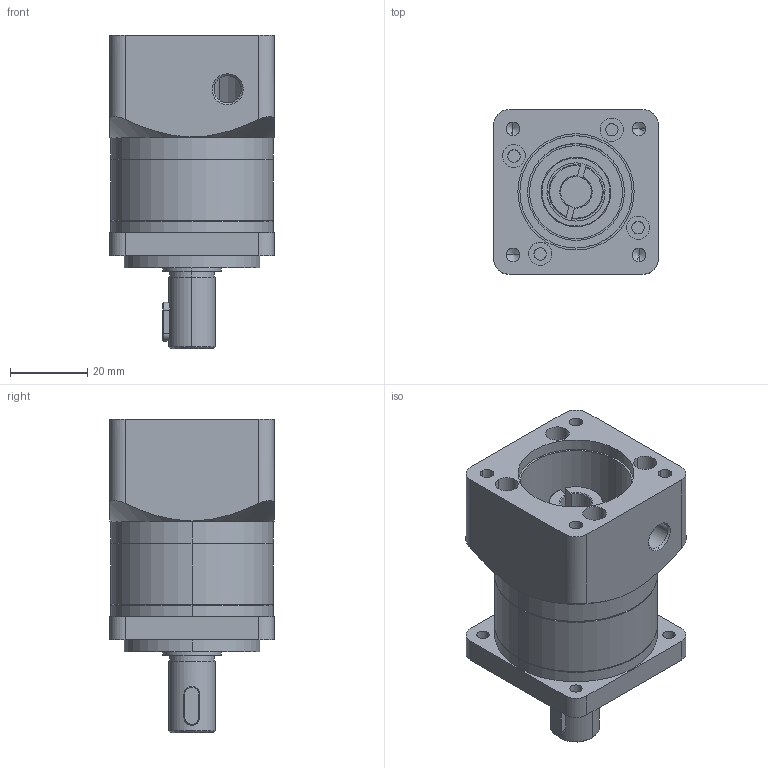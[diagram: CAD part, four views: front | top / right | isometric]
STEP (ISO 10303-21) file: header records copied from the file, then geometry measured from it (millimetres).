
FILE_DESCRIPTION (( 'STEP AP214' ), '1' );
FILE_NAME ('S42-L1.STEP', '2017-06-09T06:47:13', ( '' ), ( '' ), 'SwSTEP 2.0', 'SolidWorks 2015', '' );
FILE_SCHEMA (( 'AUTOMOTIVE_DESIGN' ));
Length unit declared in the file: millimetre
Products named in the file (8): 蚐猾_VC 15-25-4; S42-ヶ屳; s42-t; S42-L1; S42-入力軸-8.0; S42-摽屳; S42-內齒環; 4x4x10
Assembly tree (7 placements, depth 2):
  S42-L1
    S42-摽屳
    S42-內齒環
    S42-ヶ屳
    S42-入力軸-8.0
    s42-t
    蚐猾_VC 15-25-4
    4x4x10
Bounding box: 42.5 x 42.5 x 81 mm (x, y, z)
Volume: 60114.3 mm3; surface area: 29046.4 mm2
Topology: 7 solids, 7 shells, 261 faces, 605 edges, 383 vertices
Faces by surface type: cylinder 125, plane 75, cone 45, bspline 16
Entity records: 8530 total; most frequent: CARTESIAN_POINT 2191, DIRECTION 1318, ORIENTED_EDGE 1190, EDGE_CURVE 595, AXIS2_PLACEMENT_3D 532, VERTEX_POINT 383, EDGE_LOOP 324, CIRCLE 277
